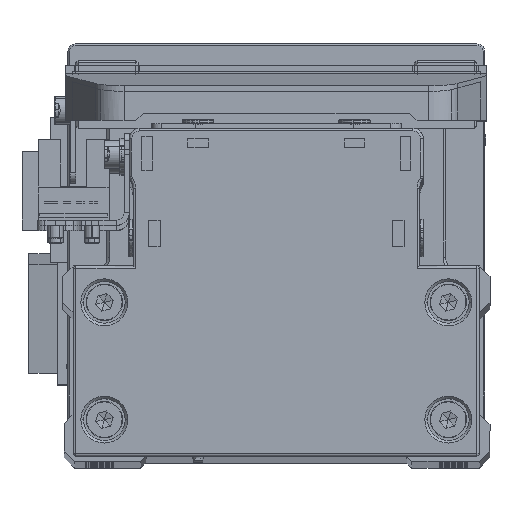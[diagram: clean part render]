
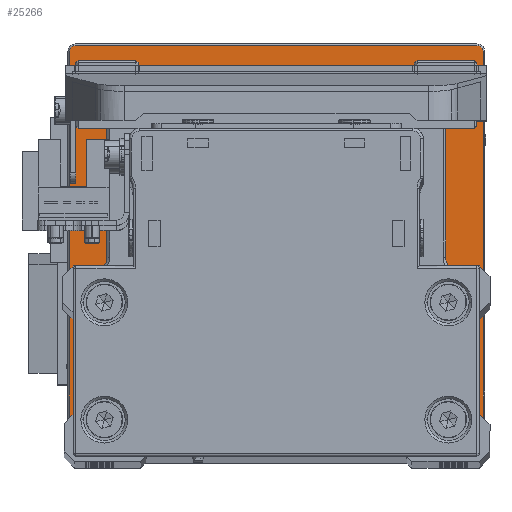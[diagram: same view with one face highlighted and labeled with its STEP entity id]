
A CAD part, top view. The second image highlights one B-rep face of the part: STEP entity #25266.
In plain terms, the highlighted planar face has unit normal (0, 0, 1) as drawn and (0, 1, 0) by its records, which use the part's own axes.
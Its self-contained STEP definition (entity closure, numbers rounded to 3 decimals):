
#327 = CARTESIAN_POINT ( 'NONE',  ( 38.5, 12., -39.7 ) ) ;
#443 = AXIS2_PLACEMENT_3D ( 'NONE', #6518, #18782, #31015 ) ;
#820 = CARTESIAN_POINT ( 'NONE',  ( 0., 12., -20.5 ) ) ;
#2005 = EDGE_CURVE ( 'NONE', #19961, #19777, #36117, .T. ) ;
#2416 = DIRECTION ( 'NONE',  ( 0., 0., -1. ) ) ;
#2795 = ORIENTED_EDGE ( 'NONE', *, *, #25857, .F. ) ;
#3515 = EDGE_CURVE ( 'NONE', #19087, #38077, #26467, .T. ) ;
#4767 = DIRECTION ( 'NONE',  ( 0., 0., 1. ) ) ;
#5427 = PLANE ( 'NONE',  #34817 ) ;
#5528 = EDGE_CURVE ( 'NONE', #33899, #17265, #21609, .T. ) ;
#5746 = ORIENTED_EDGE ( 'NONE', *, *, #5528, .T. ) ;
#6200 = DIRECTION ( 'NONE',  ( 0., 0., 1. ) ) ;
#6333 = DIRECTION ( 'NONE',  ( 0., 0., -1. ) ) ;
#6341 = VECTOR ( 'NONE', #32998, 1000. ) ;
#6387 = DIRECTION ( 'NONE',  ( 0., 0., -1. ) ) ;
#6518 = CARTESIAN_POINT ( 'NONE',  ( 38.5, 12., -38.5 ) ) ;
#6551 = CARTESIAN_POINT ( 'NONE',  ( -38.5, 12., 39.7 ) ) ;
#6668 = CARTESIAN_POINT ( 'NONE',  ( 38.5, 12., 38.5 ) ) ;
#7814 = VERTEX_POINT ( 'NONE', #6551 ) ;
#7912 = AXIS2_PLACEMENT_3D ( 'NONE', #25420, #37664, #10141 ) ;
#8347 = EDGE_LOOP ( 'NONE', ( #2795, #17169 ) ) ;
#8498 = LINE ( 'NONE', #20769, #6341 ) ;
#9345 = CARTESIAN_POINT ( 'NONE',  ( -39.7, 12., 38.5 ) ) ;
#9656 = CARTESIAN_POINT ( 'NONE',  ( -38.5, 12., 38.5 ) ) ;
#10141 = DIRECTION ( 'NONE',  ( 0., 0., 1. ) ) ;
#11178 = DIRECTION ( 'NONE',  ( -1., 0., 0. ) ) ;
#11821 = CARTESIAN_POINT ( 'NONE',  ( 39.7, 12., -38.5 ) ) ;
#12464 = CIRCLE ( 'NONE', #17606, 1.2 ) ;
#12892 = VECTOR ( 'NONE', #6333, 1000. ) ;
#12919 = VERTEX_POINT ( 'NONE', #37187 ) ;
#13348 = CARTESIAN_POINT ( 'NONE',  ( -39.7, 12., -38.5 ) ) ;
#13478 = ORIENTED_EDGE ( 'NONE', *, *, #37886, .T. ) ;
#14681 = EDGE_CURVE ( 'NONE', #37669, #30412, #21480, .T. ) ;
#15823 = CIRCLE ( 'NONE', #38259, 1.2 ) ;
#17169 = ORIENTED_EDGE ( 'NONE', *, *, #2005, .F. ) ;
#17265 = VERTEX_POINT ( 'NONE', #11821 ) ;
#17378 = CARTESIAN_POINT ( 'NONE',  ( 39.7, 12., 38.5 ) ) ;
#17606 = AXIS2_PLACEMENT_3D ( 'NONE', #21667, #33901, #6387 ) ;
#17698 = CARTESIAN_POINT ( 'NONE',  ( 0., 12., 0. ) ) ;
#17770 = CIRCLE ( 'NONE', #443, 1.2 ) ;
#18133 = CARTESIAN_POINT ( 'NONE',  ( 0., 12., 20.5 ) ) ;
#18782 = DIRECTION ( 'NONE',  ( 0., 1., 0. ) ) ;
#18820 = AXIS2_PLACEMENT_3D ( 'NONE', #20058, #32290, #4767 ) ;
#18938 = DIRECTION ( 'NONE',  ( 0., 1., 0. ) ) ;
#19087 = VERTEX_POINT ( 'NONE', #327 ) ;
#19160 = CARTESIAN_POINT ( 'NONE',  ( -38.5, 12., -39.7 ) ) ;
#19482 = AXIS2_PLACEMENT_3D ( 'NONE', #6668, #18938, #31172 ) ;
#19777 = VERTEX_POINT ( 'NONE', #18133 ) ;
#19961 = VERTEX_POINT ( 'NONE', #820 ) ;
#20058 = CARTESIAN_POINT ( 'NONE',  ( 0., 12., 0. ) ) ;
#20722 = FACE_OUTER_BOUND ( 'NONE', #22121, .T. ) ;
#20723 = EDGE_CURVE ( 'NONE', #17265, #19087, #17770, .T. ) ;
#20769 = CARTESIAN_POINT ( 'NONE',  ( 0., 12., 39.7 ) ) ;
#21480 = LINE ( 'NONE', #33713, #26725 ) ;
#21609 = LINE ( 'NONE', #33847, #12892 ) ;
#21667 = CARTESIAN_POINT ( 'NONE',  ( -38.5, 12., -38.5 ) ) ;
#21940 = DIRECTION ( 'NONE',  ( 0., 1., 0. ) ) ;
#22121 = EDGE_LOOP ( 'NONE', ( #29614, #35875, #25224, #31748, #31417, #13478, #23554, #5746 ) ) ;
#22601 = EDGE_CURVE ( 'NONE', #12919, #33899, #36795, .T. ) ;
#23467 = VECTOR ( 'NONE', #11178, 1000. ) ;
#23529 = EDGE_CURVE ( 'NONE', #38077, #37669, #12464, .T. ) ;
#23554 = ORIENTED_EDGE ( 'NONE', *, *, #22601, .T. ) ;
#25224 = ORIENTED_EDGE ( 'NONE', *, *, #23529, .T. ) ;
#25260 = CIRCLE ( 'NONE', #7912, 20.5 ) ;
#25266 = ADVANCED_FACE ( 'NONE', ( #20722, #32951 ), #5427, .F. ) ;
#25420 = CARTESIAN_POINT ( 'NONE',  ( 0., 12., 0. ) ) ;
#25857 = EDGE_CURVE ( 'NONE', #19777, #19961, #25260, .T. ) ;
#26467 = LINE ( 'NONE', #38716, #23467 ) ;
#26725 = VECTOR ( 'NONE', #6200, 1000. ) ;
#29614 = ORIENTED_EDGE ( 'NONE', *, *, #20723, .T. ) ;
#29944 = DIRECTION ( 'NONE',  ( 0., -1., 0. ) ) ;
#30412 = VERTEX_POINT ( 'NONE', #9345 ) ;
#31015 = DIRECTION ( 'NONE',  ( 0., 0., -1. ) ) ;
#31172 = DIRECTION ( 'NONE',  ( 0., 0., -1. ) ) ;
#31388 = EDGE_CURVE ( 'NONE', #30412, #7814, #15823, .T. ) ;
#31417 = ORIENTED_EDGE ( 'NONE', *, *, #31388, .T. ) ;
#31748 = ORIENTED_EDGE ( 'NONE', *, *, #14681, .T. ) ;
#32290 = DIRECTION ( 'NONE',  ( 0., 1., 0. ) ) ;
#32951 = FACE_BOUND ( 'NONE', #8347, .T. ) ;
#32998 = DIRECTION ( 'NONE',  ( 1., 0., 0. ) ) ;
#33713 = CARTESIAN_POINT ( 'NONE',  ( -39.7, 12., 0. ) ) ;
#33847 = CARTESIAN_POINT ( 'NONE',  ( 39.7, 12., 0. ) ) ;
#33899 = VERTEX_POINT ( 'NONE', #17378 ) ;
#33901 = DIRECTION ( 'NONE',  ( 0., 1., 0. ) ) ;
#34172 = DIRECTION ( 'NONE',  ( 0., 0., -1. ) ) ;
#34817 = AXIS2_PLACEMENT_3D ( 'NONE', #17698, #29944, #2416 ) ;
#35875 = ORIENTED_EDGE ( 'NONE', *, *, #3515, .T. ) ;
#36117 = CIRCLE ( 'NONE', #18820, 20.5 ) ;
#36795 = CIRCLE ( 'NONE', #19482, 1.2 ) ;
#37187 = CARTESIAN_POINT ( 'NONE',  ( 38.5, 12., 39.7 ) ) ;
#37664 = DIRECTION ( 'NONE',  ( 0., 1., 0. ) ) ;
#37669 = VERTEX_POINT ( 'NONE', #13348 ) ;
#37886 = EDGE_CURVE ( 'NONE', #7814, #12919, #8498, .T. ) ;
#38077 = VERTEX_POINT ( 'NONE', #19160 ) ;
#38259 = AXIS2_PLACEMENT_3D ( 'NONE', #9656, #21940, #34172 ) ;
#38716 = CARTESIAN_POINT ( 'NONE',  ( 0., 12., -39.7 ) ) ;
